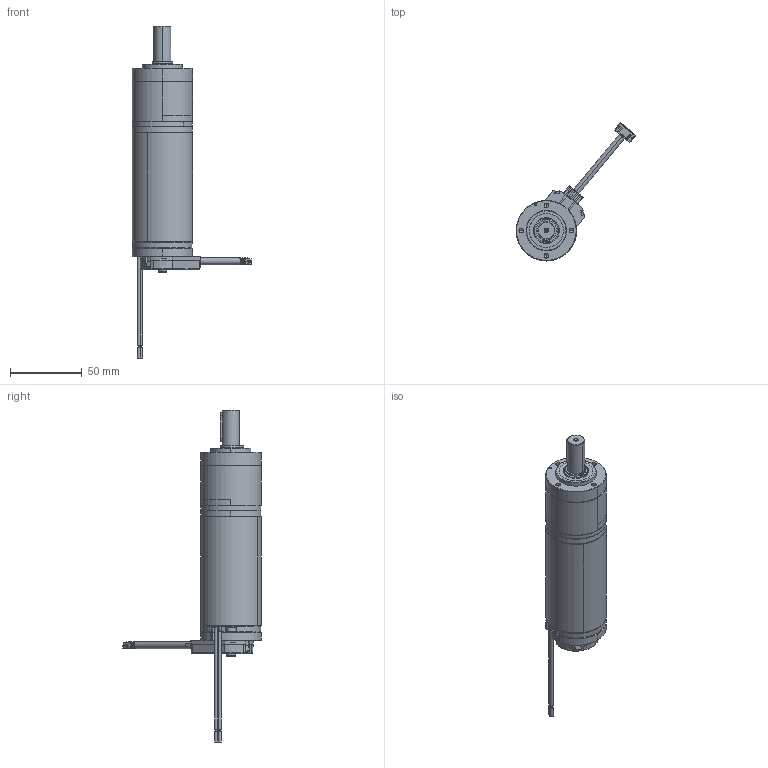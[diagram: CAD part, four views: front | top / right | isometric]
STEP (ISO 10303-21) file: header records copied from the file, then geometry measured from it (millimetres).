
FILE_DESCRIPTION (( 'STEP AP214' ), '1' );
FILE_NAME ('BRx42-40-PGx42 (1 Stage) - Incr Encoder.STEP', '2025-05-13T06:14:03', ( '' ), ( '' ), 'SwSTEP 2.0', 'SolidWorks 2023', '' );
FILE_SCHEMA (( 'AUTOMOTIVE_DESIGN' ));
Length unit declared in the file: millimetre
Products named in the file (1): BRx42-40-PGx42 (1 Stage) - Incr Encoder
Bounding box: 83.29 x 96.21 x 231.35 mm (x, y, z)
Volume: 108426.4 mm3; surface area: 71779.8 mm2
Topology: 35 solids, 35 shells, 3676 faces, 9423 edges, 5990 vertices
Faces by surface type: plane 1912, cylinder 724, cone 525, torus 245, bspline 234, sphere 36
Entity records: 165030 total; most frequent: CARTESIAN_POINT 35974, ORIENTED_EDGE 18782, DIRECTION 17744, EDGE_CURVE 9391, AXIS2_PLACEMENT_3D 6279, VERTEX_POINT 5990, LINE 5186, VECTOR 5186
